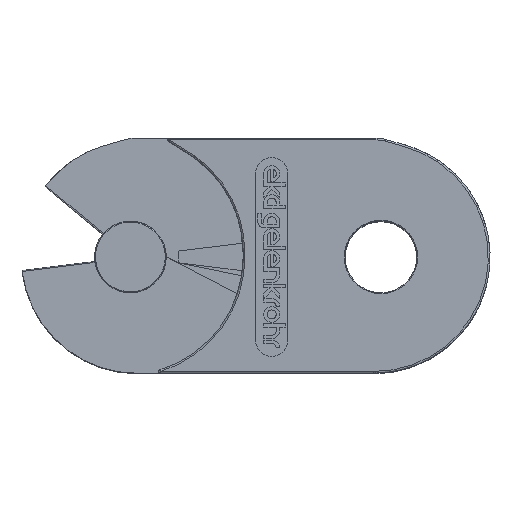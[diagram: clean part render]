
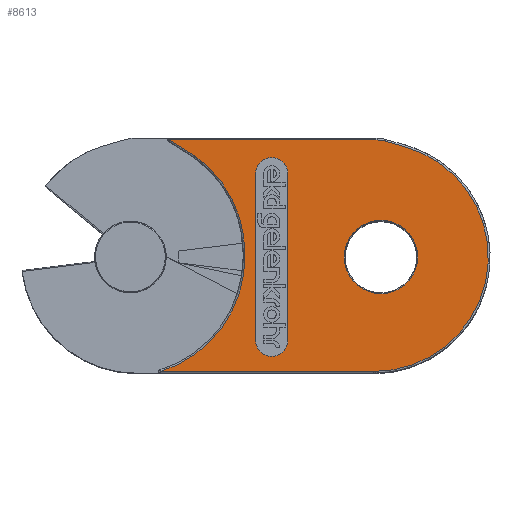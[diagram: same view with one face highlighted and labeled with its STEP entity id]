
A CAD part, top view. The second image highlights one B-rep face of the part: STEP entity #8613.
In plain terms, the highlighted free-form (B-spline) face has degree [1, 1] with [2, 2] control points.
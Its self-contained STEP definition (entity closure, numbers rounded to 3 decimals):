
#8124=CARTESIAN_POINT('',(131.837,195.231,205.528));
#8125=VERTEX_POINT('',#8124);
#8132=CARTESIAN_POINT('',(131.837,148.706,205.528));
#8133=VERTEX_POINT('',#8132);
#8134=CARTESIAN_POINT('',(131.837,148.706,205.528));
#8135=DIRECTION('',(0.0,1.0,0.0));
#8136=VECTOR('',#8135,46.525);
#8137=LINE('',#8134,#8136);
#8138=EDGE_CURVE('',#8133,#8125,#8137,.T.);
#8156=CARTESIAN_POINT('',(140.837,148.706,205.528));
#8157=VERTEX_POINT('',#8156);
#8158=CARTESIAN_POINT('',(136.337,148.706,205.528));
#8159=DIRECTION('',(0.0,0.0,-1.0));
#8160=DIRECTION('',(-1.0,0.0,0.0));
#8161=AXIS2_PLACEMENT_3D('',#8158,#8159,#8160);
#8162=CIRCLE('',#8161,4.5);
#8163=EDGE_CURVE('',#8157,#8133,#8162,.T.);
#8181=CARTESIAN_POINT('',(140.837,195.231,205.528));
#8182=VERTEX_POINT('',#8181);
#8183=CARTESIAN_POINT('',(140.837,195.231,205.528));
#8184=DIRECTION('',(0.0,-1.0,0.0));
#8185=VECTOR('',#8184,46.525);
#8186=LINE('',#8183,#8185);
#8187=EDGE_CURVE('',#8182,#8157,#8186,.T.);
#8205=CARTESIAN_POINT('',(136.337,195.231,205.528));
#8206=DIRECTION('',(0.0,0.0,-1.0));
#8207=DIRECTION('',(1.0,0.0,0.0));
#8208=AXIS2_PLACEMENT_3D('',#8205,#8206,#8207);
#8209=CIRCLE('',#8208,4.5);
#8210=EDGE_CURVE('',#8125,#8182,#8209,.T.);
#8521=CARTESIAN_POINT('',(105.249,204.668,205.528));
#8522=CARTESIAN_POINT('',(196.837,204.668,205.528));
#8523=CARTESIAN_POINT('',(105.249,139.968,205.528));
#8524=CARTESIAN_POINT('',(196.837,139.968,205.528));
#8525=B_SPLINE_SURFACE_WITH_KNOTS('',1,1,((#8521,#8523),(#8522,#8524)),.UNSPECIFIED.,.F.,.F.,.U.,(2,2),(2,2),(0.0,91.588),(0.0,64.7),.UNSPECIFIED.);
#8526=CARTESIAN_POINT('',(164.837,139.968,205.528));
#8527=VERTEX_POINT('',#8526);
#8528=CARTESIAN_POINT('',(173.507,202.771,205.528));
#8529=VERTEX_POINT('',#8528);
#8530=CARTESIAN_POINT('',(164.837,171.968,205.528));
#8531=DIRECTION('',(0.,0.,1.0));
#8532=DIRECTION('',(0.991,-0.137,0.));
#8533=AXIS2_PLACEMENT_3D('',#8530,#8531,#8532);
#8534=CIRCLE('',#8533,32.);
#8535=EDGE_CURVE('',#8527,#8529,#8534,.T.);
#8536=ORIENTED_EDGE('',*,*,#8535,.T.);
#8537=CARTESIAN_POINT('',(168.03,204.313,205.528));
#8538=VERTEX_POINT('',#8537);
#8539=CARTESIAN_POINT('',(173.507,202.771,205.528));
#8540=DIRECTION('',(-0.963,0.271,0.0));
#8541=VECTOR('',#8540,5.69);
#8542=LINE('',#8539,#8541);
#8543=EDGE_CURVE('',#8529,#8538,#8542,.T.);
#8544=ORIENTED_EDGE('',*,*,#8543,.T.);
#8545=CARTESIAN_POINT('',(165.456,204.668,205.528));
#8546=VERTEX_POINT('',#8545);
#8547=CARTESIAN_POINT('',(165.456,195.168,205.528));
#8548=DIRECTION('',(0.,0.,1.));
#8549=DIRECTION('',(0.137,0.991,0.));
#8550=AXIS2_PLACEMENT_3D('',#8547,#8548,#8549);
#8551=CIRCLE('',#8550,9.5);
#8552=EDGE_CURVE('',#8538,#8546,#8551,.T.);
#8553=ORIENTED_EDGE('',*,*,#8552,.T.);
#8554=CARTESIAN_POINT('',(107.835,204.668,205.528));
#8555=VERTEX_POINT('',#8554);
#8556=CARTESIAN_POINT('',(165.456,204.668,205.528));
#8557=DIRECTION('',(-1.0,0.0,0.0));
#8558=VECTOR('',#8557,57.621);
#8559=LINE('',#8556,#8558);
#8560=EDGE_CURVE('',#8546,#8555,#8559,.T.);
#8561=ORIENTED_EDGE('',*,*,#8560,.T.);
#8562=CARTESIAN_POINT('',(114.841,200.205,205.528));
#8563=VERTEX_POINT('',#8562);
#8564=CARTESIAN_POINT('',(107.835,204.668,205.528));
#8565=DIRECTION('',(0.843,-0.537,0.));
#8566=VECTOR('',#8565,8.308);
#8567=LINE('',#8564,#8566);
#8568=EDGE_CURVE('',#8555,#8563,#8567,.T.);
#8569=ORIENTED_EDGE('',*,*,#8568,.T.);
#8570=CARTESIAN_POINT('',(128.833,172.468,205.528));
#8571=VERTEX_POINT('',#8570);
#8572=CARTESIAN_POINT('',(95.337,172.968,205.528));
#8573=DIRECTION('',(0.,0.,-1.0));
#8574=DIRECTION('',(0.893,0.45,0.));
#8575=AXIS2_PLACEMENT_3D('',#8572,#8573,#8574);
#8576=CIRCLE('',#8575,33.5);
#8577=EDGE_CURVE('',#8563,#8571,#8576,.T.);
#8578=ORIENTED_EDGE('',*,*,#8577,.T.);
#8579=CARTESIAN_POINT('',(105.249,139.968,205.528));
#8580=VERTEX_POINT('',#8579);
#8581=CARTESIAN_POINT('',(95.337,171.968,205.528));
#8582=DIRECTION('',(0.,0.,-1.));
#8583=DIRECTION('',(0.809,-0.587,0.));
#8584=AXIS2_PLACEMENT_3D('',#8581,#8582,#8583);
#8585=CIRCLE('',#8584,33.5);
#8586=EDGE_CURVE('',#8571,#8580,#8585,.T.);
#8587=ORIENTED_EDGE('',*,*,#8586,.T.);
#8588=CARTESIAN_POINT('',(105.249,139.968,205.528));
#8589=DIRECTION('',(1.0,0.0,0.0));
#8590=VECTOR('',#8589,59.588);
#8591=LINE('',#8588,#8590);
#8592=EDGE_CURVE('',#8580,#8527,#8591,.T.);
#8593=ORIENTED_EDGE('',*,*,#8592,.T.);
#8594=EDGE_LOOP('',(#8536,#8544,#8553,#8561,#8569,#8578,#8587,#8593));
#8595=FACE_OUTER_BOUND('',#8594,.T.);
#8596=CARTESIAN_POINT('',(177.087,171.968,205.528));
#8597=VERTEX_POINT('',#8596);
#8598=CARTESIAN_POINT('',(166.837,171.968,205.528));
#8599=DIRECTION('',(0.0,0.0,-1.0));
#8600=DIRECTION('',(-1.0,0.0,0.0));
#8601=AXIS2_PLACEMENT_3D('',#8598,#8599,#8600);
#8602=CIRCLE('',#8601,10.25);
#8603=EDGE_CURVE('',#8597,#8597,#8602,.T.);
#8604=ORIENTED_EDGE('',*,*,#8603,.T.);
#8605=EDGE_LOOP('',(#8604));
#8606=FACE_BOUND('',#8605,.T.);
#8607=ORIENTED_EDGE('',*,*,#8138,.T.);
#8608=ORIENTED_EDGE('',*,*,#8210,.T.);
#8609=ORIENTED_EDGE('',*,*,#8187,.T.);
#8610=ORIENTED_EDGE('',*,*,#8163,.T.);
#8611=EDGE_LOOP('',(#8607,#8608,#8609,#8610));
#8612=FACE_BOUND('',#8611,.T.);
#8613=ADVANCED_FACE('',(#8595,#8606,#8612),#8525,.F.);
